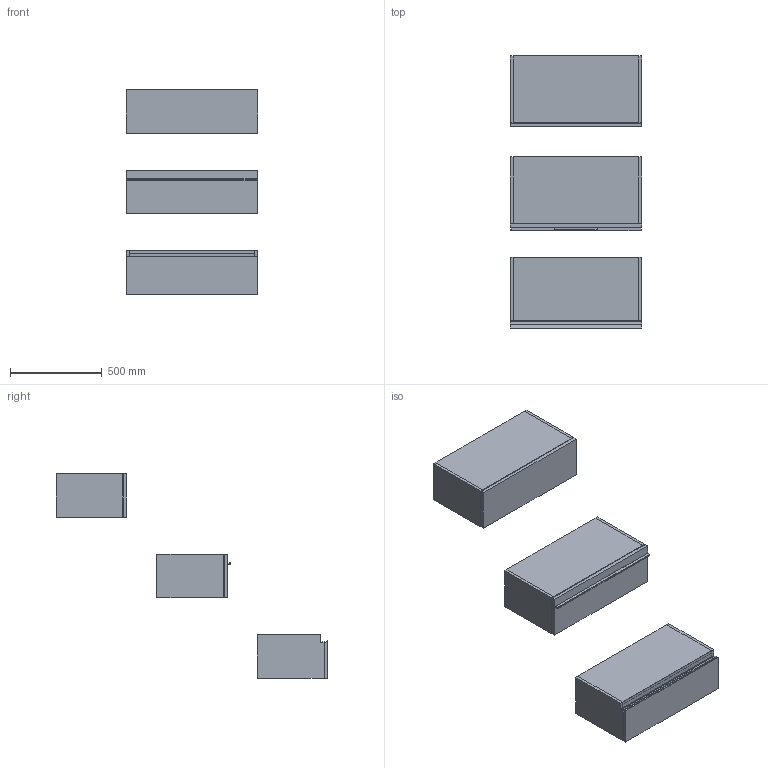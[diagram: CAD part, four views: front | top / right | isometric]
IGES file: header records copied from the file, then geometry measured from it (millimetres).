
Start section: Data from Parasolid IGES Translator 19.0.9, Copyright(c) 2006 Siemens PL M Software. All Rights Reserved.
Global section: file name: noorth-SI-H 24 D 38,8 W 72_8246.igs; native system: By Siemens PLM Incorporated; preprocessor: XPlus GENERIC/IGES 19.0.9; author: Noname; organization: Noname; date: 20200530.104230; units: metre
Bounding box: 720.01 x 1485.97 x 1120 mm (x, y, z)
Volume: 42947854.8 mm3; surface area: 6441636.3 mm2
Topology: 20 solids, 20 shells, 178 faces, 382 edges, 234 vertices
Faces by surface type: plane 134, extrusion 16, bspline 16, cylinder 12
